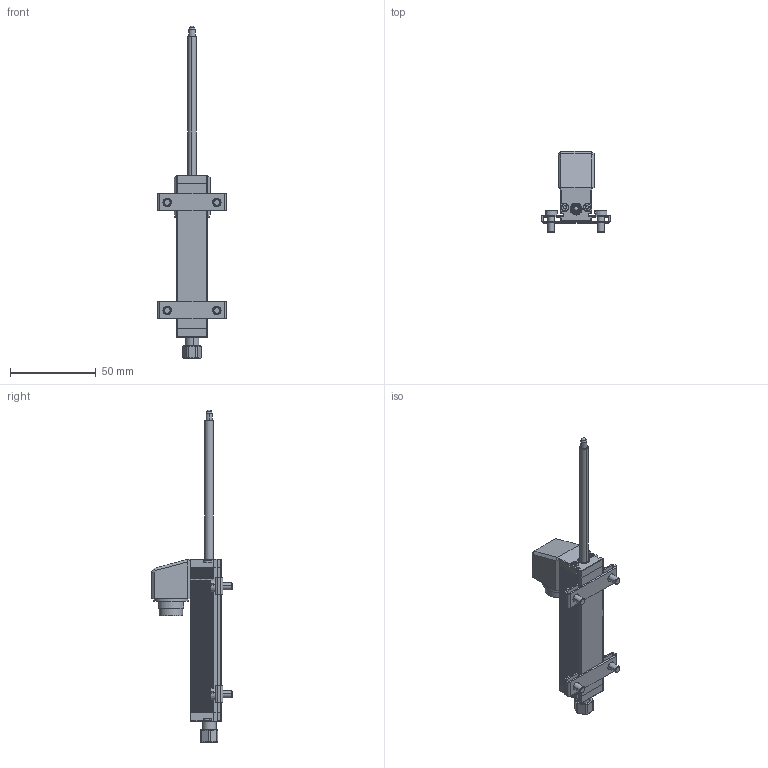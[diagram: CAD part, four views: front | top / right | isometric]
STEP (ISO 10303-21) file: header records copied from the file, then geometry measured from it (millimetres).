
FILE_DESCRIPTION (( 'STEP AP214' ), '1' );
FILE_NAME ('TRS_050.STEP', '2008-11-05T12:13:50', ( 'novotechnik' ), ( 'novotechnik' ), 'SwSTEP 2.0', 'SolidWorks 2008', '' );
FILE_SCHEMA (( 'AUTOMOTIVE_DESIGN' ));
Length unit declared in the file: millimetre
Products named in the file (4): TR_TRS_050_-_Schubstange_Standard; TRS_050_-_Gehaeuse_Standard; TRS_050; T-Serie_Klammer_Standard
Assembly tree (4 placements, depth 2):
  TRS_050
    T-Serie_Klammer_Standard  x2
    TRS_050_-_Gehaeuse_Standard
    TR_TRS_050_-_Schubstange_Standard
Bounding box: 40.19 x 47.19 x 193.4 mm (x, y, z)
Volume: 46336.9 mm3; surface area: 24952.4 mm2
Topology: 24 solids, 24 shells, 991 faces, 2443 edges, 1515 vertices
Faces by surface type: cylinder 486, plane 305, bspline 110, cone 88, torus 2
Entity records: 39874 total; most frequent: CARTESIAN_POINT 7503, DIRECTION 4774, ORIENTED_EDGE 4510, EDGE_CURVE 2255, AXIS2_PLACEMENT_3D 1852, VERTEX_POINT 1411, VECTOR 1070, LINE 1070
